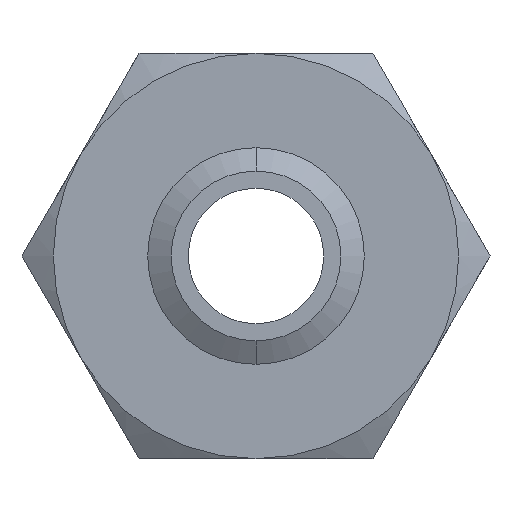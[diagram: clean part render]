
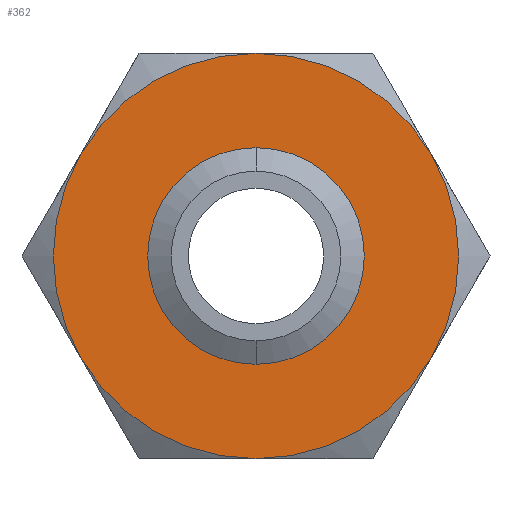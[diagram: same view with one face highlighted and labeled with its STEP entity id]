
A CAD part, front view. The second image highlights one B-rep face of the part: STEP entity #362.
In plain terms, the highlighted planar face has unit normal (0, -1, 0).
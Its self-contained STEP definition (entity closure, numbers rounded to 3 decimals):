
#188 = EDGE_CURVE ( 'NONE', #1956, #1955, #825, .T. ) ;
#287 = ORIENTED_EDGE ( 'NONE', *, *, #188, .F. ) ;
#290 = EDGE_LOOP ( 'NONE', ( #371, #367, #355, #360, #379, #373 ) ) ;
#291 = EDGE_CURVE ( 'NONE', #1955, #1956, #1110, .T. ) ;
#292 = ORIENTED_EDGE ( 'NONE', *, *, #291, .F. ) ;
#355 = ORIENTED_EDGE ( 'NONE', *, *, #358, .F. ) ;
#356 = VERTEX_POINT ( 'NONE', #1221 ) ;
#358 = EDGE_CURVE ( 'NONE', #359, #538, #1220, .T. ) ;
#359 = VERTEX_POINT ( 'NONE', #1279 ) ;
#360 = ORIENTED_EDGE ( 'NONE', *, *, #389, .F. ) ;
#362 = ADVANCED_FACE ( 'NONE', ( #1274, #1273 ), #1272, .F. ) ;
#365 = VERTEX_POINT ( 'NONE', #1262 ) ;
#367 = ORIENTED_EDGE ( 'NONE', *, *, #368, .F. ) ;
#368 = EDGE_CURVE ( 'NONE', #538, #365, #1259, .T. ) ;
#371 = ORIENTED_EDGE ( 'NONE', *, *, #926, .F. ) ;
#372 = EDGE_LOOP ( 'NONE', ( #287, #292 ) ) ;
#373 = ORIENTED_EDGE ( 'NONE', *, *, #374, .F. ) ;
#374 = EDGE_CURVE ( 'NONE', #381, #356, #1253, .T. ) ;
#378 = VERTEX_POINT ( 'NONE', #1307 ) ;
#379 = ORIENTED_EDGE ( 'NONE', *, *, #380, .F. ) ;
#380 = EDGE_CURVE ( 'NONE', #356, #378, #1303, .T. ) ;
#381 = VERTEX_POINT ( 'NONE', #1298 ) ;
#389 = EDGE_CURVE ( 'NONE', #378, #359, #1286, .T. ) ;
#538 = VERTEX_POINT ( 'NONE', #1516 ) ;
#821 = DIRECTION ( 'NONE',  ( 0., 0., -1. ) ) ;
#822 = DIRECTION ( 'NONE',  ( 0., -1., 0. ) ) ;
#823 = CARTESIAN_POINT ( 'NONE',  ( 0., 0., 0. ) ) ;
#824 = AXIS2_PLACEMENT_3D ( 'NONE', #823, #822, #821 ) ;
#825 = CIRCLE ( 'NONE', #824, 19.901 ) ;
#926 = EDGE_CURVE ( 'NONE', #365, #381, #1515, .T. ) ;
#1105 = DIRECTION ( 'NONE',  ( 0., 0., -1. ) ) ;
#1106 = DIRECTION ( 'NONE',  ( 0., -1., 0. ) ) ;
#1107 = CARTESIAN_POINT ( 'NONE',  ( 0., 0., 0. ) ) ;
#1108 = AXIS2_PLACEMENT_3D ( 'NONE', #1107, #1106, #1105 ) ;
#1110 = CIRCLE ( 'NONE', #1108, 19.901 ) ;
#1218 = CARTESIAN_POINT ( 'NONE',  ( 0., 0., 0. ) ) ;
#1219 = AXIS2_PLACEMENT_3D ( 'NONE', #1218, #1281, #1280 ) ;
#1220 = CIRCLE ( 'NONE', #1219, 47.5 ) ;
#1221 = CARTESIAN_POINT ( 'NONE',  ( 41.136, 0., -23.75 ) ) ;
#1249 = DIRECTION ( 'NONE',  ( 0., 0., 1. ) ) ;
#1250 = DIRECTION ( 'NONE',  ( 0., 1., 0. ) ) ;
#1251 = CARTESIAN_POINT ( 'NONE',  ( 0., 0., 0. ) ) ;
#1252 = AXIS2_PLACEMENT_3D ( 'NONE', #1251, #1250, #1249 ) ;
#1253 = CIRCLE ( 'NONE', #1252, 47.5 ) ;
#1255 = DIRECTION ( 'NONE',  ( 0., 0., 1. ) ) ;
#1256 = DIRECTION ( 'NONE',  ( 0., 1., 0. ) ) ;
#1257 = CARTESIAN_POINT ( 'NONE',  ( 0., 0., 0. ) ) ;
#1258 = AXIS2_PLACEMENT_3D ( 'NONE', #1257, #1256, #1255 ) ;
#1259 = CIRCLE ( 'NONE', #1258, 47.5 ) ;
#1262 = CARTESIAN_POINT ( 'NONE',  ( 0., 0., 47.5 ) ) ;
#1267 = DIRECTION ( 'NONE',  ( 0., 0., 1. ) ) ;
#1268 = DIRECTION ( 'NONE',  ( 0., 1., 0. ) ) ;
#1269 = CARTESIAN_POINT ( 'NONE',  ( 27.424, 0., -47.5 ) ) ;
#1271 = AXIS2_PLACEMENT_3D ( 'NONE', #1269, #1268, #1267 ) ;
#1272 = PLANE ( 'NONE',  #1271 ) ;
#1273 = FACE_BOUND ( 'NONE', #372, .T. ) ;
#1274 = FACE_OUTER_BOUND ( 'NONE', #290, .T. ) ;
#1279 = CARTESIAN_POINT ( 'NONE',  ( -41.136, 0., -23.75 ) ) ;
#1280 = DIRECTION ( 'NONE',  ( 0., 0., 1. ) ) ;
#1281 = DIRECTION ( 'NONE',  ( 0., 1., 0. ) ) ;
#1282 = DIRECTION ( 'NONE',  ( 0., 0., 1. ) ) ;
#1283 = DIRECTION ( 'NONE',  ( 0., 1., 0. ) ) ;
#1284 = CARTESIAN_POINT ( 'NONE',  ( 0., 0., 0. ) ) ;
#1285 = AXIS2_PLACEMENT_3D ( 'NONE', #1284, #1283, #1282 ) ;
#1286 = CIRCLE ( 'NONE', #1285, 47.5 ) ;
#1298 = CARTESIAN_POINT ( 'NONE',  ( 41.136, 0., 23.75 ) ) ;
#1299 = DIRECTION ( 'NONE',  ( 0., 0., 1. ) ) ;
#1300 = DIRECTION ( 'NONE',  ( 0., 1., 0. ) ) ;
#1301 = CARTESIAN_POINT ( 'NONE',  ( 0., 0., 0. ) ) ;
#1302 = AXIS2_PLACEMENT_3D ( 'NONE', #1301, #1300, #1299 ) ;
#1303 = CIRCLE ( 'NONE', #1302, 47.5 ) ;
#1307 = CARTESIAN_POINT ( 'NONE',  ( 0., 0., -47.5 ) ) ;
#1511 = DIRECTION ( 'NONE',  ( 0., 0., 1. ) ) ;
#1512 = DIRECTION ( 'NONE',  ( 0., 1., 0. ) ) ;
#1513 = CARTESIAN_POINT ( 'NONE',  ( 0., 0., 0. ) ) ;
#1514 = AXIS2_PLACEMENT_3D ( 'NONE', #1513, #1512, #1511 ) ;
#1515 = CIRCLE ( 'NONE', #1514, 47.5 ) ;
#1516 = CARTESIAN_POINT ( 'NONE',  ( -41.136, 0., 23.75 ) ) ;
#1669 = CARTESIAN_POINT ( 'NONE',  ( 0., 0., -19.901 ) ) ;
#1670 = CARTESIAN_POINT ( 'NONE',  ( 0., 0., 19.901 ) ) ;
#1955 = VERTEX_POINT ( 'NONE', #1670 ) ;
#1956 = VERTEX_POINT ( 'NONE', #1669 ) ;
